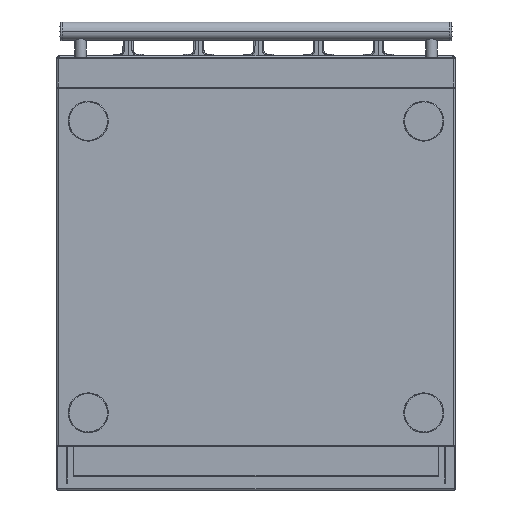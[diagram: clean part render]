
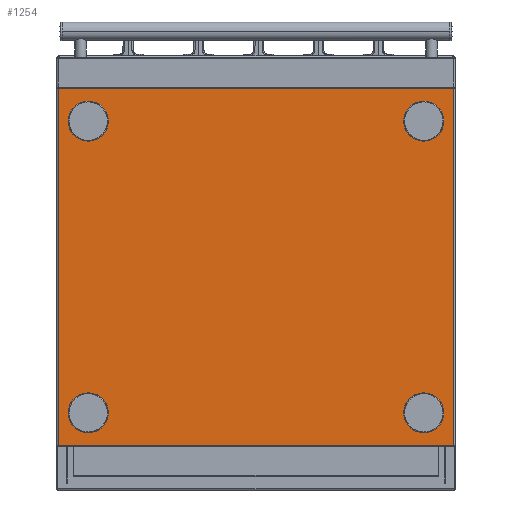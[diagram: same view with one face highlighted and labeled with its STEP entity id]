
A CAD part, front view. The second image highlights one B-rep face of the part: STEP entity #1254.
In plain terms, the highlighted planar face has unit normal (0, -1, 0).
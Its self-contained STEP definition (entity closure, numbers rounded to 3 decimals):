
#46=CARTESIAN_POINT('',(252.,-352.5,-219.));
#47=DIRECTION('',(0.,-1.,0.));
#48=DIRECTION('',(1.,0.,0.));
#49=AXIS2_PLACEMENT_3D('',#46,#47,#48);
#51=CARTESIAN_POINT('',(252.,-352.5,-219.));
#52=DIRECTION('',(0.,-1.,0.));
#53=DIRECTION('',(-1.,0.,0.));
#54=AXIS2_PLACEMENT_3D('',#51,#52,#53);
#56=CARTESIAN_POINT('',(252.,-352.5,219.));
#57=DIRECTION('',(0.,-1.,0.));
#58=DIRECTION('',(1.,0.,0.));
#59=AXIS2_PLACEMENT_3D('',#56,#57,#58);
#61=CARTESIAN_POINT('',(252.,-352.5,219.));
#62=DIRECTION('',(0.,-1.,0.));
#63=DIRECTION('',(-1.,0.,0.));
#64=AXIS2_PLACEMENT_3D('',#61,#62,#63);
#66=CARTESIAN_POINT('',(-252.,-352.5,-219.));
#67=DIRECTION('',(0.,1.,0.));
#68=DIRECTION('',(-1.,0.,0.));
#69=AXIS2_PLACEMENT_3D('',#66,#67,#68);
#71=CARTESIAN_POINT('',(-252.,-352.5,-219.));
#72=DIRECTION('',(0.,1.,0.));
#73=DIRECTION('',(1.,0.,0.));
#74=AXIS2_PLACEMENT_3D('',#71,#72,#73);
#76=CARTESIAN_POINT('',(-252.,-352.5,219.));
#77=DIRECTION('',(0.,1.,0.));
#78=DIRECTION('',(-1.,0.,0.));
#79=AXIS2_PLACEMENT_3D('',#76,#77,#78);
#81=CARTESIAN_POINT('',(-252.,-352.5,219.));
#82=DIRECTION('',(0.,1.,0.));
#83=DIRECTION('',(1.,0.,0.));
#84=AXIS2_PLACEMENT_3D('',#81,#82,#83);
#86=DIRECTION('',(0.,0.,-1.));
#87=VECTOR('',#86,536.4);
#88=CARTESIAN_POINT('',(297.2,-352.5,268.2));
#89=LINE('',#88,#87);
#90=DIRECTION('',(-1.,0.,0.));
#91=VECTOR('',#90,594.4);
#92=CARTESIAN_POINT('',(297.2,-352.5,-268.2));
#93=LINE('',#92,#91);
#94=DIRECTION('',(0.,0.,1.));
#95=VECTOR('',#94,536.4);
#96=CARTESIAN_POINT('',(-297.2,-352.5,-268.2));
#97=LINE('',#96,#95);
#98=DIRECTION('',(-1.,0.,0.));
#99=VECTOR('',#98,594.4);
#100=CARTESIAN_POINT('',(297.2,-352.5,268.2));
#101=LINE('',#100,#99);
#960=CARTESIAN_POINT('',(282.,-352.5,-219.));
#961=CARTESIAN_POINT('',(222.,-352.5,-219.));
#962=VERTEX_POINT('',#960);
#963=VERTEX_POINT('',#961);
#992=CARTESIAN_POINT('',(297.2,-352.5,268.2));
#993=CARTESIAN_POINT('',(297.2,-352.5,-268.2));
#994=VERTEX_POINT('',#992);
#995=VERTEX_POINT('',#993);
#998=CARTESIAN_POINT('',(-297.2,-352.5,268.2));
#999=VERTEX_POINT('',#998);
#1002=CARTESIAN_POINT('',(-297.2,-352.5,-268.2));
#1003=VERTEX_POINT('',#1002);
#1060=CARTESIAN_POINT('',(282.,-352.5,219.));
#1061=CARTESIAN_POINT('',(222.,-352.5,219.));
#1062=VERTEX_POINT('',#1060);
#1063=VERTEX_POINT('',#1061);
#1068=CARTESIAN_POINT('',(-282.,-352.5,-219.));
#1069=VERTEX_POINT('',#1068);
#1070=CARTESIAN_POINT('',(-222.,-352.5,-219.));
#1071=VERTEX_POINT('',#1070);
#1076=CARTESIAN_POINT('',(-282.,-352.5,219.));
#1077=VERTEX_POINT('',#1076);
#1078=CARTESIAN_POINT('',(-222.,-352.5,219.));
#1079=VERTEX_POINT('',#1078);
#1216=CARTESIAN_POINT('',(-299.,-352.5,270.));
#1217=DIRECTION('',(0.,-1.,0.));
#1218=DIRECTION('',(0.,0.,-1.));
#1219=AXIS2_PLACEMENT_3D('',#1216,#1217,#1218);
#1220=PLANE('',#1219);
#1222=ORIENTED_EDGE('',*,*,#1221,.T.);
#1224=ORIENTED_EDGE('',*,*,#1223,.T.);
#1226=ORIENTED_EDGE('',*,*,#1225,.T.);
#1227=ORIENTED_EDGE('',*,*,#1205,.F.);
#1228=EDGE_LOOP('',(#1222,#1224,#1226,#1227));
#1229=FACE_OUTER_BOUND('',#1228,.F.);
#1231=ORIENTED_EDGE('',*,*,#1230,.T.);
#1233=ORIENTED_EDGE('',*,*,#1232,.T.);
#1234=EDGE_LOOP('',(#1231,#1233));
#1235=FACE_BOUND('',#1234,.F.);
#1237=ORIENTED_EDGE('',*,*,#1236,.F.);
#1239=ORIENTED_EDGE('',*,*,#1238,.F.);
#1240=EDGE_LOOP('',(#1237,#1239));
#1241=FACE_BOUND('',#1240,.F.);
#1243=ORIENTED_EDGE('',*,*,#1242,.F.);
#1245=ORIENTED_EDGE('',*,*,#1244,.F.);
#1246=EDGE_LOOP('',(#1243,#1245));
#1247=FACE_BOUND('',#1246,.F.);
#1249=ORIENTED_EDGE('',*,*,#1248,.T.);
#1251=ORIENTED_EDGE('',*,*,#1250,.T.);
#1252=EDGE_LOOP('',(#1249,#1251));
#1253=FACE_BOUND('',#1252,.F.);
#50=CIRCLE('',#49,30.);
#55=CIRCLE('',#54,30.);
#60=CIRCLE('',#59,30.);
#65=CIRCLE('',#64,30.);
#70=CIRCLE('',#69,30.);
#75=CIRCLE('',#74,30.);
#80=CIRCLE('',#79,30.);
#85=CIRCLE('',#84,30.);
#1205=EDGE_CURVE('',#994,#999,#101,.T.);
#1221=EDGE_CURVE('',#994,#995,#89,.T.);
#1223=EDGE_CURVE('',#995,#1003,#93,.T.);
#1225=EDGE_CURVE('',#1003,#999,#97,.T.);
#1230=EDGE_CURVE('',#1062,#1063,#60,.T.);
#1232=EDGE_CURVE('',#1063,#1062,#65,.T.);
#1236=EDGE_CURVE('',#1069,#1071,#70,.T.);
#1238=EDGE_CURVE('',#1071,#1069,#75,.T.);
#1242=EDGE_CURVE('',#1077,#1079,#80,.T.);
#1244=EDGE_CURVE('',#1079,#1077,#85,.T.);
#1248=EDGE_CURVE('',#962,#963,#50,.T.);
#1250=EDGE_CURVE('',#963,#962,#55,.T.);
#1254=ADVANCED_FACE('',(#1229,#1235,#1241,#1247,#1253),#1220,.T.);
